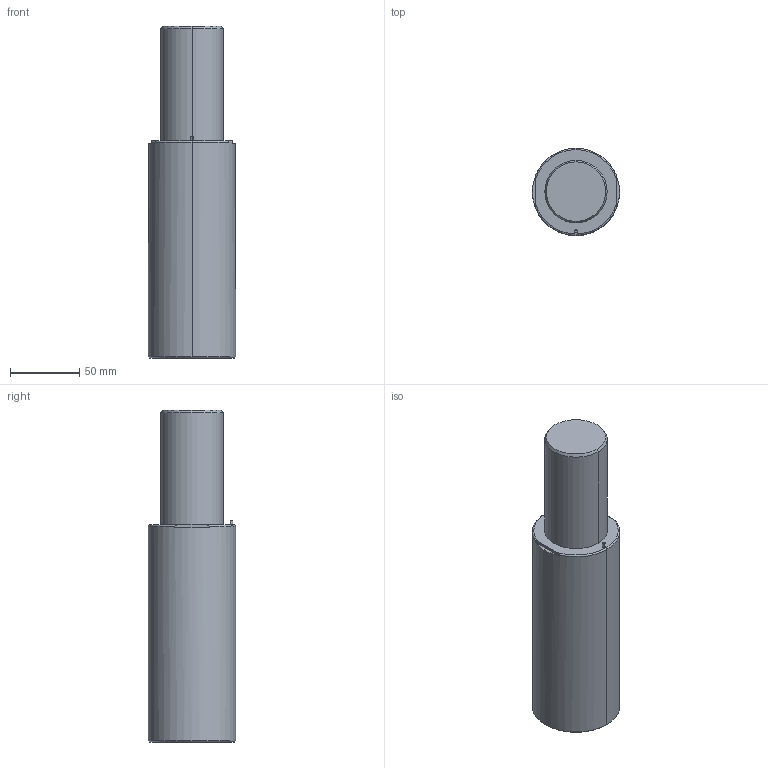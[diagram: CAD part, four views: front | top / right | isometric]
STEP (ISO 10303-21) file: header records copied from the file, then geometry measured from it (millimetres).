
FILE_DESCRIPTION(/* description */ (''),/* implementation_level */ '2;1');
FILE_NAME(/* name */ '3d_gsx63-80_03967_r00.stp',/* time_stamp */ '2011-01-10T14:15:11+09:00',/* author */ ('MISUMI'),/* organization */ (''),/* preprocessor_version */ 'ST-DEVELOPER v11',/* originating_system */ 'UGS - NX 5.0',/* authorisation */ '');
FILE_SCHEMA (('CONFIG_CONTROL_DESIGN'));
Length unit declared in the file: millimetre
Products named in the file (1): 3d_gsx63-80_03967_r00
Bounding box: 63 x 63 x 240 mm (x, y, z)
Volume: 617698.8 mm3; surface area: 50450 mm2
Topology: 1 solids, 1 shells, 59 faces, 130 edges, 78 vertices
Faces by surface type: cylinder 28, plane 15, cone 12, torus 4
Entity records: 1692 total; most frequent: DIRECTION 308, CARTESIAN_POINT 288, ORIENTED_EDGE 244, AXIS2_PLACEMENT_3D 130, EDGE_CURVE 122, VERTEX_POINT 78, EDGE_LOOP 72, CIRCLE 70
